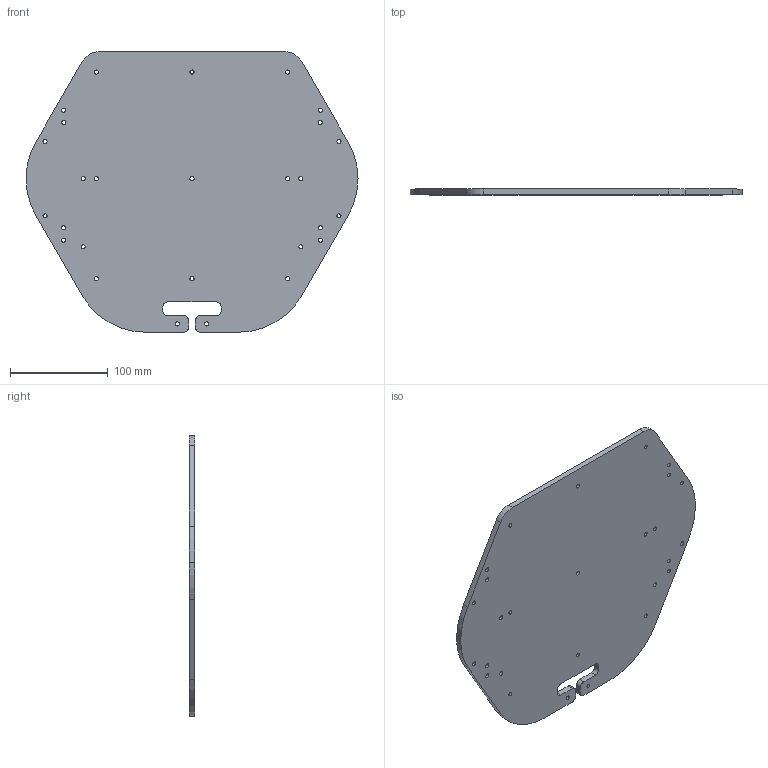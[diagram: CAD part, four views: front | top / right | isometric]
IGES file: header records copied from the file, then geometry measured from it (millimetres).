
Start section:  PTC IGES file: disk_02.igs
Global section: file name: disk_02.igs; native system: Creo Elements/Pro by Parametric Technology Corporation; preprocessor: 2010480; author: asus; organization: Unknown; date: 20121101.191102; units: millimetre
Bounding box: 340 x 6 x 287.27 mm (x, y, z)
Volume: 466293.3 mm3; surface area: 164603.1 mm2
Topology: 1 solids, 1 shells, 88 faces, 258 edges, 172 vertices
Faces by surface type: revolution 72, bspline 16
